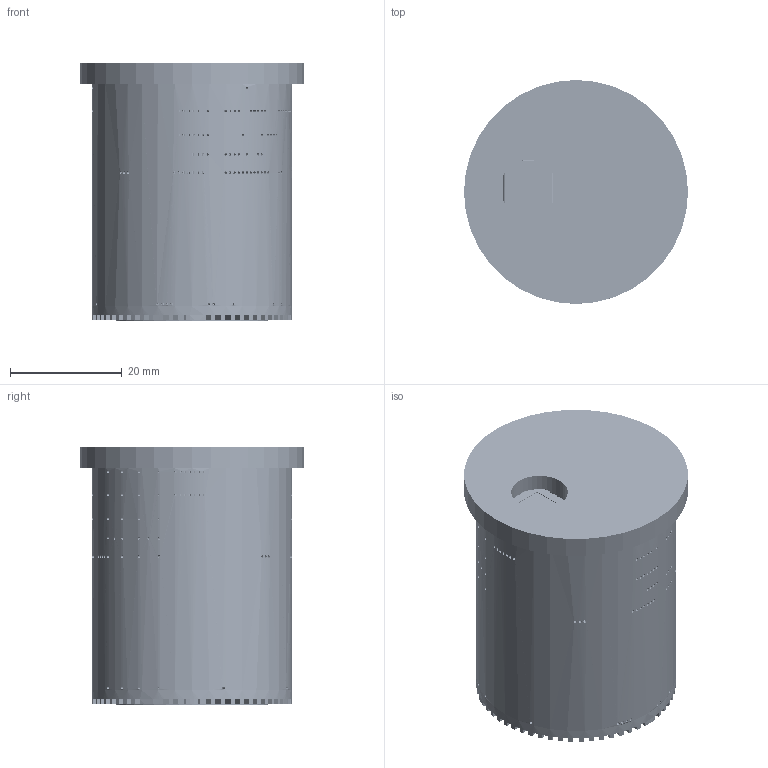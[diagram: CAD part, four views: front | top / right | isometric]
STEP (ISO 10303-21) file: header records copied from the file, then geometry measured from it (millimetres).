
FILE_DESCRIPTION(('Open CASCADE Model'),'2;1');
FILE_NAME('Open CASCADE Shape Model','2026-11-24T10:08:45',('Author'),( 'Open CASCADE'),'Open CASCADE STEP processor 7.8','Open CASCADE 7.8' ,'Unknown');
FILE_SCHEMA(('AUTOMOTIVE_DESIGN { 1 0 10303 214 1 1 1 1 }'));
Length unit declared in the file: millimetre
Products named in the file (17): a4230652-e7e6-11f1-85fd-3ea5e9b9197e; aft_end_board; battery_holder; battery_floor_plate; activation_interface; spacer_activation_interface_wakeup_board; wakeup_board; spacer_wakeup_board_power_board; power_board; spacer_power_board_companion_compute; companion_compute; spacer_companion_compute_camera_module; camera_module; core_sleeve; nose_cap; optic_insert; aft_end_cap
Assembly tree (16 placements, depth 2):
  a4230652-e7e6-11f1-85fd-3ea5e9b9197e
    aft_end_board
    battery_holder
    battery_floor_plate
    activation_interface
    spacer_activation_interface_wakeup_board
    wakeup_board
    spacer_wakeup_board_power_board
    power_board
    spacer_power_board_companion_compute
    companion_compute
    spacer_companion_compute_camera_module
    camera_module
    core_sleeve
    nose_cap
    optic_insert
    aft_end_cap
Bounding box: 40 x 40 x 46.08 mm (x, y, z)
Volume: 31415.1 mm3; surface area: 46405.1 mm2
Topology: 1814 solids, 1814 shells, 25441 faces, 64726 edges, 42772 vertices
Faces by surface type: plane 17299, cylinder 7262, sphere 650, bspline 108, revolution 74, extrusion 32, cone 8, torus 8
Full cylindrical faces by diameter (mm): 0.125 x1, 0.188 x1, 0.2 x1, 0.25 x3, 0.3 x9, 0.375 x1, 0.5 x234, 0.625 x3, 0.8 x3, 0.812 x1, 1 x4, 1.2 x6, 1.25 x1, 1.55 x3, 1.6 x3, 1.8 x22, 2.2 x15, 3 x6, 3.5 x3, 10.1 x2, 11.7 x1, 27.2 x2, 27.8 x1, 34.2 x1, 35.8 x2, 37.88 x1, 38 x1, 40 x1
Entity records: 1649079 total; most frequent: CARTESIAN_POINT 367354, DIRECTION 242478, VECTOR 156787, LINE 156755, ORIENTED_EDGE 125914, PCURVE 125912, DEFINITIONAL_REPRESENTATION 125912, EDGE_CURVE 62956
